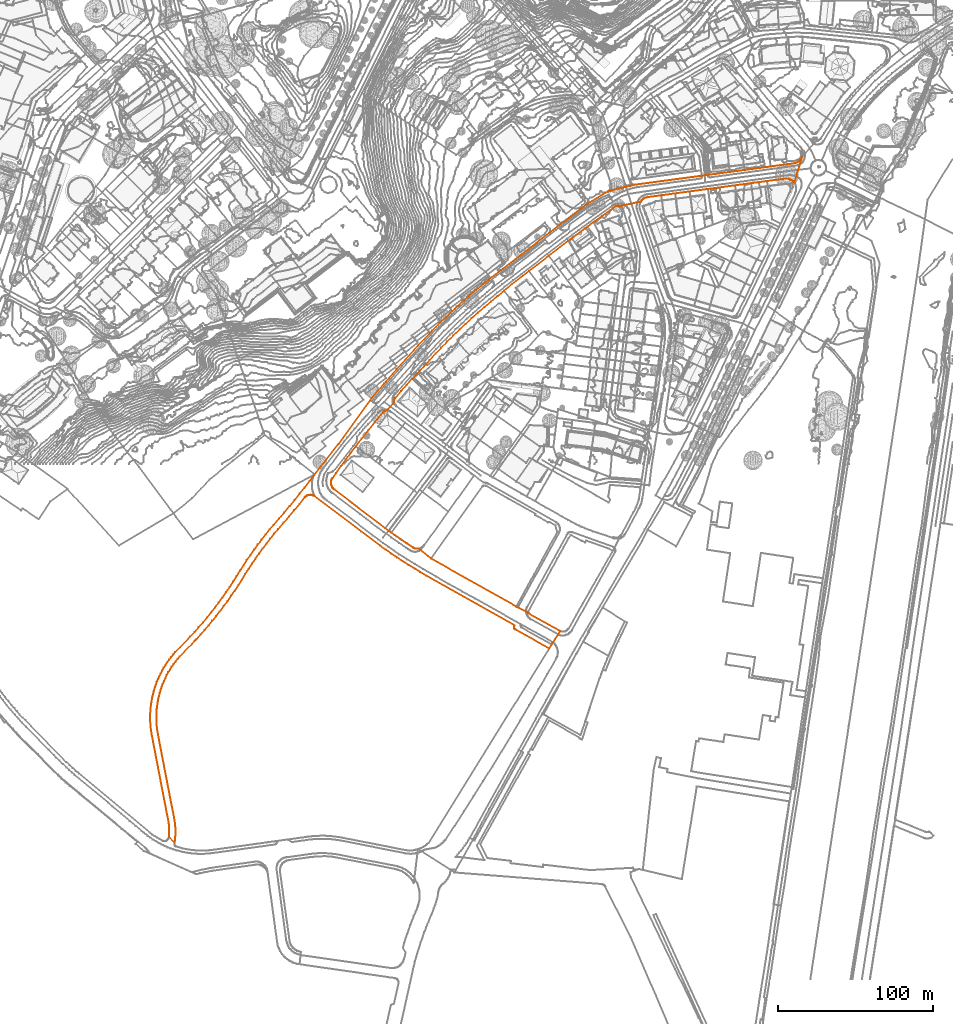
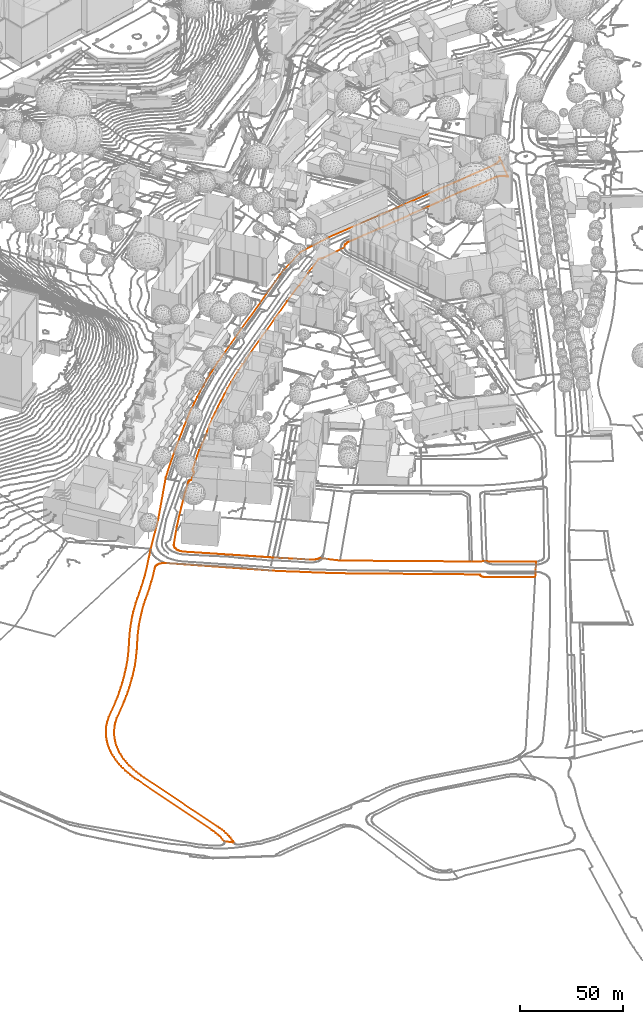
# Not in any storey, part 111 of 494: 1 proxy.
"""IFC2X3 model written with IfcOpenShell, lengths in metres."""

from ifc_helpers import new_model, entity, si_unit, frame, origin_with_axes, place, context, subcontext, project, element, save


model = new_model("IFC2X3")

# Units and contexts
model_context = context("Model", 3, precision=1e-05, world=origin_with_axes())
body_context = subcontext(model_context, "Body", "Model", "MODEL_VIEW")
ifc_project = project(units=[si_unit("AREAUNIT", "SQUARE_METRE"), si_unit("LENGTHUNIT", "METRE")], contexts=[model_context])

# Proxy
proxy_placement = place(None, frame((154.5327320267, -164.0942839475, 505.3426228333), z_axis=(0.0, 0.0, 1.0), x_axis=(1.0, 0.0, 0.0)))
element("IfcBuildingElementProxy", 1, at=proxy_placement, Name="Cadastre 149", ObjectType="NOTDEFINED", context=body_context, shape_type="GeometricCurveSet", body=[
    entity("IfcGeometricCurveSet", [entity("IfcPolyline", [entity("IfcCartesianPoint", [1.2060000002, -12.3830000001, -0.0163954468]), entity("IfcCartesianPoint", [0.8319999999, -10.3400000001, -0.0001767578]), entity("IfcCartesianPoint", [0.5279999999, -8.2850000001, 0.0064936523]), entity("IfcCartesianPoint", [0.2919999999, -6.2220000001, 0.0035911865]), entity("IfcCartesianPoint", [0.125, -4.1510000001, 0.001537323]), entity("IfcCartesianPoint", [0.0279999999, -2.077, 0.0003443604]), entity("IfcCartesianPoint", [0.0, 0.0, 0.0]), entity("IfcCartesianPoint", [0.0419999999, 2.0769999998, 0.0005165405]), entity("IfcCartesianPoint", [0.1529999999, 4.1509999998, 0.0018816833]), entity("IfcCartesianPoint", [0.3340000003, 6.22, 0.0041077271]), entity("IfcCartesianPoint", [0.5840000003, 8.2819999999, 0.0071823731]), entity("IfcCartesianPoint", [0.9029999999, 10.334, -0.0032557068]), entity("IfcCartesianPoint", [1.2910000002, 12.375, -0.0200815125]), entity("IfcCartesianPoint", [1.747, 14.4009999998, -0.044556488]), entity("IfcCartesianPoint", [2.27, 16.4109999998, -0.0913372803]), entity("IfcCartesianPoint", [2.8470000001, 18.4069999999, -0.1378624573]), entity("IfcCartesianPoint", [3.4909999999, 20.3839999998, -0.1792523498]), entity("IfcCartesianPoint", [4.2009999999, 22.3369999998, -0.2411391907]), entity("IfcCartesianPoint", [4.9750000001, 24.2649999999, -0.299756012]), entity("IfcCartesianPoint", [5.8140000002, 26.1669999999, -0.3362230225]), entity("IfcCartesianPoint", [6.716, 28.0389999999, -0.3500701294]), entity("IfcCartesianPoint", [7.6800000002, 29.8799999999, -0.4198739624]), entity("IfcCartesianPoint", [8.7050000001, 31.6879999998, -0.4508912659]), entity("IfcCartesianPoint", [9.7910000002, 33.4609999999, -0.4658191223]), entity("IfcCartesianPoint", [10.9350000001, 35.196, -0.5225260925]), entity("IfcCartesianPoint", [12.1359999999, 36.892, -0.5314093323]), entity("IfcCartesianPoint", [13.3930000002, 38.5459999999, -0.5217888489]), entity("IfcCartesianPoint", [14.7060000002, 40.1579999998, -0.487691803]), entity("IfcCartesianPoint", [16.071, 41.7249999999, -0.5442338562]), entity("IfcCartesianPoint", [25.7609999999, 51.7379999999, -0.8013497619]), entity("IfcCartesianPoint", [28.537, 54.7479999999, -0.8010265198]), entity("IfcCartesianPoint", [31.2630000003, 57.8029999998, -0.8268110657]), entity("IfcCartesianPoint", [33.9380000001, 60.9039999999, -0.8638869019]), entity("IfcCartesianPoint", [36.5610000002, 64.047, -1.0377999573]), entity("IfcCartesianPoint", [39.1320000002, 67.2339999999, -1.0269317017]), entity("IfcCartesianPoint", [41.6499999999, 70.463, -1.1156793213]), entity("IfcCartesianPoint", [44.1210000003, 73.7279999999, -1.2128439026]), entity("IfcCartesianPoint", [46.5380000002, 77.0319999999, -1.4133015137]), entity("IfcCartesianPoint", [48.8999999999, 80.3769999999, -1.5808654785]), entity("IfcCartesianPoint", [51.2060000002, 83.7589999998, -1.6133543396]), entity("IfcCartesianPoint", [53.4560000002, 87.1799999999, -1.4412802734]), entity("IfcCartesianPoint", [55.6499999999, 90.6369999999, -1.3813548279]), entity("IfcCartesianPoint", [57.7790000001, 94.111, -1.556384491]), entity("IfcCartesianPoint", [59.9649999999, 97.551, -1.4317793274]), entity("IfcCartesianPoint", [62.2050000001, 100.9539999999, -1.3596211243]), entity("IfcCartesianPoint", [64.5010000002, 104.3219999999, -1.3388379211]), entity("IfcCartesianPoint", [66.8500000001, 107.6509999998, -1.3048759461]), entity("IfcCartesianPoint", [69.2519999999, 110.9399999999, -1.3463474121]), entity("IfcCartesianPoint", [71.7060000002, 114.1899999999, -1.7353237]), entity("IfcCartesianPoint", [74.213, 117.399, -1.916881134]), entity("IfcCartesianPoint", [76.7710000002, 120.568, -1.9356949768]), entity("IfcCartesianPoint", [79.3799999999, 123.6949999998, -2.2021380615]), entity("IfcCartesianPoint", [82.8420000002, 127.6399999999, -2.3312045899]), entity("IfcCartesianPoint", [86.2630000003, 131.6209999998, -2.532268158]), entity("IfcCartesianPoint", [89.642, 135.6369999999, -2.5718655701]), entity("IfcCartesianPoint", [92.9790000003, 139.689, -2.5023097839]), entity("IfcCartesianPoint", [96.2230000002, 143.75, -2.3170953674]), entity("IfcCartesianPoint", [99.4250000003, 147.845, -1.778318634]), entity("IfcCartesianPoint", [102.5840000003, 151.973, -1.4929896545]), entity("IfcCartesianPoint", [105.699, 156.1339999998, -1.4561200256]), entity("IfcCartesianPoint", [121.2549999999, 175.865, -1.6524384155]), entity("IfcCartesianPoint", [142.5660000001, 205.341, -1.8092639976]), entity("IfcCartesianPoint", [150.557, 214.7189999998, -1.883841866]), entity("IfcCartesianPoint", [158.7149999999, 223.9949999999, -1.9932315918]), entity("IfcCartesianPoint", [172.3360000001, 239.031, -2.1333289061]), entity("IfcCartesianPoint", [181.4750000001, 248.8089999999, -2.2485789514]), entity("IfcCartesianPoint", [186.3489999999, 253.5599999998, -2.3085580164]), entity("IfcCartesianPoint", [190.1329999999, 257.2549999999, -2.3219283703]), entity("IfcCartesianPoint", [193.9679999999, 260.8969999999, -2.4236527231]), entity("IfcCartesianPoint", [197.8530000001, 264.4849999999, -2.4757754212]), entity("IfcCartesianPoint", [201.7880000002, 268.0189999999, -2.5317026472]), entity("IfcCartesianPoint", [205.7689999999, 271.4959999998, -2.5777396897]), entity("IfcCartesianPoint", [209.798, 274.9169999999, -2.629919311]), entity("IfcCartesianPoint", [213.8740000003, 278.2819999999, -2.7128531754]), entity("IfcCartesianPoint", [217.997, 281.5889999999, -2.6836720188]), entity("IfcCartesianPoint", [225.895, 287.7489999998, -2.8008434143]), entity("IfcCartesianPoint", [276.716, 326.96, -2.4505935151]), entity("IfcCartesianPoint", [281.3170000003, 330.253, -2.4395861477]), entity("IfcCartesianPoint", [295.1210000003, 338.716, -2.3447109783]), entity("IfcCartesianPoint", [312.2680000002, 342.686, -2.5391912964]), entity("IfcCartesianPoint", [358.0419999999, 348.8469999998, -2.83661916]), entity("IfcCartesianPoint", [373.1200000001, 350.8669999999, -2.8159804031]), entity("IfcCartesianPoint", [382.7090000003, 352.1569999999, -2.8554079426]), entity("IfcCartesianPoint", [399.5470000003, 354.4279999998, -2.9931989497]), entity("IfcCartesianPoint", [414.2260000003, 356.3999999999, -2.9657775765]), entity("IfcCartesianPoint", [414.9280000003, 356.5159999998, -2.970938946]), entity("IfcCartesianPoint", [415.6120000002, 356.7079999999, -2.9525679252]), entity("IfcCartesianPoint", [416.2719999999, 356.9739999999, -2.9142430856]), entity("IfcCartesianPoint", [416.8990000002, 357.3099999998, -2.9013623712]), entity("IfcCartesianPoint", [417.4849999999, 357.713, -2.8972143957]), entity("IfcCartesianPoint", [418.0240000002, 358.1769999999, -2.880036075]), entity("IfcCartesianPoint", [418.5090000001, 358.6979999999, -2.860058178]), entity("IfcCartesianPoint", [418.9339999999, 359.2679999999, -2.8321860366]), entity("IfcCartesianPoint", [419.2940000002, 359.8809999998, -2.8039679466]), entity("IfcCartesianPoint", [419.585, 360.53, -2.7725969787]), entity("IfcCartesianPoint", [414.6860000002, 343.959, -2.7518927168]), entity("IfcCartesianPoint", [414.2439999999, 344.4959999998, -2.7170474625]), entity("IfcCartesianPoint", [413.7480000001, 344.983, -2.6654043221]), entity("IfcCartesianPoint", [413.2030000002, 345.415, -2.6392082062]), entity("IfcCartesianPoint", [412.6159999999, 345.787, -2.6270326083]), entity("IfcCartesianPoint", [411.9920000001, 346.0939999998, -2.6253682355]), entity("IfcCartesianPoint", [411.3390000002, 346.3329999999, -2.6272969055]), entity("IfcCartesianPoint", [410.6639999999, 346.5019999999, -2.643516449]), entity("IfcCartesianPoint", [409.9750000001, 346.598, -2.6482165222]), entity("IfcCartesianPoint", [409.2800000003, 346.6199999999, -2.6413540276]), entity("IfcCartesianPoint", [408.5870000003, 346.5689999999, -2.6238918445]), entity("IfcCartesianPoint", [397.1380000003, 345.0279999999, -2.7051812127]), entity("IfcCartesianPoint", [386.8590000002, 343.6469999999, -2.20450076]), entity("IfcCartesianPoint", [376.5800000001, 342.257, -2.3842553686]), entity("IfcCartesianPoint", [359.1520000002, 339.9169999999, -2.4992127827]), entity("IfcCartesianPoint", [347.2740000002, 338.3169999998, -2.6593111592]), entity("IfcCartesianPoint", [338.0550000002, 337.0759999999, -2.6061414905]), entity("IfcCartesianPoint", [329.0559999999, 335.8659999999, -2.5688110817]), entity("IfcCartesianPoint", [320.1970000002, 334.676, -2.5358612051]), entity("IfcCartesianPoint", [319.5430000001, 334.548, -2.5342208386]), entity("IfcCartesianPoint", [318.9070000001, 334.348, -2.530767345]), entity("IfcCartesianPoint", [318.2970000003, 334.0789999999, -2.527112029]), entity("IfcCartesianPoint", [317.7209999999, 333.743, -2.5241943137]), entity("IfcCartesianPoint", [317.1860000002, 333.3459999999, -2.5530044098]), entity("IfcCartesianPoint", [316.6979999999, 332.892, -2.5910519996]), entity("IfcCartesianPoint", [316.264, 332.3869999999, -2.6024352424]), entity("IfcCartesianPoint", [315.8880000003, 331.8359999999, -2.592188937]), entity("IfcCartesianPoint", [302.2490000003, 328.916, -2.4571699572]), entity("IfcCartesianPoint", [301.798, 329.031, -2.4160082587]), entity("IfcCartesianPoint", [301.335, 329.085, -2.3635889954]), entity("IfcCartesianPoint", [300.8700000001, 329.0769999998, -2.2926716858]), entity("IfcCartesianPoint", [300.4100000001, 329.0079999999, -2.218959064]), entity("IfcCartesianPoint", [299.963, 328.8769999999, -2.1367658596]), entity("IfcCartesianPoint", [299.537, 328.689, -2.072959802]), entity("IfcCartesianPoint", [299.1400000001, 328.446, -2.0910202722]), entity("IfcCartesianPoint", [290.8110000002, 322.5349999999, -2.4468672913]), entity("IfcCartesianPoint", [281.4620000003, 315.6849999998, -2.8019570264]), entity("IfcCartesianPoint", [269.1240000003, 306.5939999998, -2.8242058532]), entity("IfcCartesianPoint", [256.5959999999, 296.9339999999, -3.1266950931]), entity("IfcCartesianPoint", [243.9380000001, 287.1739999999, -3.1570894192]), entity("IfcCartesianPoint", [227.6979999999, 274.6129999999, -3.0987196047]), entity("IfcCartesianPoint", [227.8820000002, 274.3739999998, -3.1279191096]), entity("IfcCartesianPoint", [223.6129999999, 270.9709999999, -2.8719831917]), entity("IfcCartesianPoint", [219.392, 267.51, -2.8600598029]), entity("IfcCartesianPoint", [215.2179999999, 263.9919999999, -2.8062931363]), entity("IfcCartesianPoint", [211.0929999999, 260.416, -2.6623224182]), entity("IfcCartesianPoint", [207.017, 256.784, -2.5534096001]), entity("IfcCartesianPoint", [202.9920000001, 253.0969999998, -2.6452792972]), entity("IfcCartesianPoint", [199.0180000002, 249.3539999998, -2.5358297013]), entity("IfcCartesianPoint", [195.0950000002, 245.557, -2.5115234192]), entity("IfcCartesianPoint", [191.2250000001, 241.7069999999, -2.5801727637]), entity("IfcCartesianPoint", [187.4080000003, 237.804, -2.4305469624]), entity("IfcCartesianPoint", [183.645, 233.8499999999, -2.4355082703]), entity("IfcCartesianPoint", [179.9360000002, 229.8439999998, -2.4454526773]), entity("IfcCartesianPoint", [168.679, 217.517, -2.2479542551]), entity("IfcCartesianPoint", [168.4679999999, 217.7219999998, -2.2577171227]), entity("IfcCartesianPoint", [164.966, 213.7589999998, -2.0828404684]), entity("IfcCartesianPoint", [161.4939999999, 209.7689999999, -2.0705627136]), entity("IfcCartesianPoint", [158.0530000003, 205.7519999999, -2.0881727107]), entity("IfcCartesianPoint", [157.7220000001, 205.3189999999, -2.0884026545]), entity("IfcCartesianPoint", [157.4530000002, 204.8439999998, -2.085411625]), entity("IfcCartesianPoint", [157.2510000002, 204.338, -2.0832156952]), entity("IfcCartesianPoint", [157.1200000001, 203.8089999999, -2.0849365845]), entity("IfcCartesianPoint", [157.0610000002, 203.267, -2.0832736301]), entity("IfcCartesianPoint", [157.077, 202.7219999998, -2.0813719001]), entity("IfcCartesianPoint", [152.1469999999, 197.2019999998, -1.7696685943]), entity("IfcCartesianPoint", [151.642, 197.111, -1.7282215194]), entity("IfcCartesianPoint", [151.1520000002, 196.9549999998, -1.7298373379]), entity("IfcCartesianPoint", [150.6869999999, 196.7389999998, -1.7161124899]), entity("IfcCartesianPoint", [150.253, 196.4639999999, -1.7620959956]), entity("IfcCartesianPoint", [149.8569999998, 196.1369999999, -1.7457984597]), entity("IfcCartesianPoint", [149.5070000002, 195.7609999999, -1.6734062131]), entity("IfcCartesianPoint", [144.3670000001, 189.541, -1.736502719]), entity("IfcCartesianPoint", [140.273, 184.4669999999, -1.7999864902]), entity("IfcCartesianPoint", [136.233, 179.3499999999, -1.7234613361]), entity("IfcCartesianPoint", [132.247, 174.1909999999, -1.5674797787]), entity("IfcCartesianPoint", [129.04, 169.956, -1.534521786]), entity("IfcCartesianPoint", [125.8689999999, 165.693, -1.4154538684]), entity("IfcCartesianPoint", [122.7349999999, 161.4029999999, -1.5950999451]), entity("IfcCartesianPoint", [119.6370000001, 157.0869999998, -1.673978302]), entity("IfcCartesianPoint", [117.4369999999, 153.916, -1.6248179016]), entity("IfcCartesianPoint", [117.088, 153.365, -1.6125270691]), entity("IfcCartesianPoint", [116.8059999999, 152.7759999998, -1.6025957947]), entity("IfcCartesianPoint", [116.5959999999, 152.1569999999, -1.5961422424]), entity("IfcCartesianPoint", [116.4610000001, 151.5189999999, -1.593983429]), entity("IfcCartesianPoint", [116.4029999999, 150.868, -1.5930559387]), entity("IfcCartesianPoint", [116.4210000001, 150.216, -1.5933437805]), entity("IfcCartesianPoint", [116.5180000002, 149.5699999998, -1.594894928]), entity("IfcCartesianPoint", [116.6899999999, 148.9399999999, -1.5985105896]), entity("IfcCartesianPoint", [116.9350000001, 148.335, -1.6071388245]), entity("IfcCartesianPoint", [117.25, 147.763, -1.6182322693]), entity("IfcCartesianPoint", [117.6310000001, 147.233, -1.6316500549]), entity("IfcCartesianPoint", [118.0720000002, 146.7519999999, -1.6513898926]), entity("IfcCartesianPoint", [118.5670000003, 146.3259999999, -1.6737017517]), entity("IfcCartesianPoint", [153.551, 119.841, -1.3152816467]), entity("IfcCartesianPoint", [157.298, 117.129, -1.3589804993]), entity("IfcCartesianPoint", [161.088, 114.476, -1.3071403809]), entity("IfcCartesianPoint", [164.9180000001, 111.8829999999, -1.5148742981]), entity("IfcCartesianPoint", [168.7889999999, 109.351, -1.5089746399]), entity("IfcCartesianPoint", [169.3080000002, 109.0249999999, -1.4913779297]), entity("IfcCartesianPoint", [169.8599999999, 108.7589999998, -1.4931794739]), entity("IfcCartesianPoint", [170.4390000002, 108.5549999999, -1.5288015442]), entity("IfcCartesianPoint", [171.0359999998, 108.4179999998, -1.557393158]), entity("IfcCartesianPoint", [171.645, 108.3469999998, -1.5821858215]), entity("IfcCartesianPoint", [172.2579999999, 108.345, -1.5505331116]), entity("IfcCartesianPoint", [172.8680000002, 108.4109999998, -1.5212538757]), entity("IfcCartesianPoint", [180.7170000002, 101.9809999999, -1.8596504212]), entity("IfcCartesianPoint", [202.5040000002, 89.7309999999, -2.265276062]), entity("IfcCartesianPoint", [235.6800000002, 71.081, -2.906809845]), entity("IfcCartesianPoint", [243.2490000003, 67.1409999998, -3.0009917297]), entity("IfcCartesianPoint", [243.321, 66.9409999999, -3.0018882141]), entity("IfcCartesianPoint", [243.4339999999, 66.7609999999, -3.0032951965]), entity("IfcCartesianPoint", [243.5819999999, 66.6089999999, -3.00513797]), entity("IfcCartesianPoint", [243.7590000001, 66.4909999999, -3.0073383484]), entity("IfcCartesianPoint", [263.8560000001, 55.3809999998, -3.2814216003]), entity("IfcCartesianPoint", [256.8659999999, 44.111, -3.280083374]), entity("IfcCartesianPoint", [235.1690000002, 56.2209999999, -2.9004472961]), entity("IfcCartesianPoint", [234.8569999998, 56.4679999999, -2.8965625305]), entity("IfcCartesianPoint", [234.6000000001, 56.7719999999, -2.8933639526]), entity("IfcCartesianPoint", [234.4080000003, 57.1209999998, -2.890979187]), entity("IfcCartesianPoint", [234.2889999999, 57.5009999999, -2.8895011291]), entity("IfcCartesianPoint", [234.253, 57.8959999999, -2.8890539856]), entity("IfcCartesianPoint", [234.2960000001, 58.291, -2.8895880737]), entity("IfcCartesianPoint", [234.4160000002, 58.669, -2.8910785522]), entity("IfcCartesianPoint", [234.6090000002, 59.0159999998, -2.8934757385]), entity("IfcCartesianPoint", [177.736, 91.0209999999, -1.7406611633]), entity("IfcCartesianPoint", [173.898, 93.2609999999, -1.4941828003]), entity("IfcCartesianPoint", [170.088, 95.5499999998, -1.5072068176]), entity("IfcCartesianPoint", [166.3080000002, 97.8869999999, -1.5370578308]), entity("IfcCartesianPoint", [162.5580000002, 100.2709999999, -1.3607223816]), entity("IfcCartesianPoint", [158.8459999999, 102.7109999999, -1.3227983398]), entity("IfcCartesianPoint", [155.165, 105.1979999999, -1.2875788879]), entity("IfcCartesianPoint", [151.5160000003, 107.7309999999, -1.4448482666]), entity("IfcCartesianPoint", [147.8999999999, 110.311, -1.418170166]), entity("IfcCartesianPoint", [105.9780000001, 142.0729999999, -1.4611775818]), entity("IfcCartesianPoint", [105.466, 142.416, -1.4616690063]), entity("IfcCartesianPoint", [104.9139999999, 142.6899999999, -1.4817996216]), entity("IfcCartesianPoint", [104.3310000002, 142.8899999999, -1.4884282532]), entity("IfcCartesianPoint", [103.7280000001, 143.013, -1.4823187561]), entity("IfcCartesianPoint", [103.1129999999, 143.057, -1.4875823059]), entity("IfcCartesianPoint", [102.4980000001, 143.0219999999, -1.4930421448]), entity("IfcCartesianPoint", [101.977, 142.9269999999, -1.4933601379]), entity("IfcCartesianPoint", [101.469, 142.7749999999, -1.5050622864]), entity("IfcCartesianPoint", [100.9810000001, 142.5669999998, -1.5369472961]), entity("IfcCartesianPoint", [100.52, 142.3059999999, -1.5777226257]), entity("IfcCartesianPoint", [100.0899999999, 141.9949999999, -1.6424693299]), entity("IfcCartesianPoint", [99.6979999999, 141.639, -1.7014942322]), entity("IfcCartesianPoint", [99.3480000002, 141.2409999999, -1.8024140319]), entity("IfcCartesianPoint", [96.0430000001, 137.139, -2.3466376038]), entity("IfcCartesianPoint", [92.696, 133.0719999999, -2.5028884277]), entity("IfcCartesianPoint", [89.3059999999, 129.041, -2.5610169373]), entity("IfcCartesianPoint", [85.8730000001, 125.0449999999, -2.5291617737]), entity("IfcCartesianPoint", [82.3990000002, 121.0859999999, -2.3187214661]), entity("IfcCartesianPoint", [79.8360000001, 118.0109999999, -2.2419472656]), entity("IfcCartesianPoint", [77.3229999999, 114.8959999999, -1.9616036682]), entity("IfcCartesianPoint", [74.8599999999, 111.74, -1.9129692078]), entity("IfcCartesianPoint", [72.449, 108.5449999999, -1.7784507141]), entity("IfcCartesianPoint", [70.0890000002, 105.3119999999, -1.4248731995]), entity("IfcCartesianPoint", [67.7770000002, 102.031, -1.359184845]), entity("IfcCartesianPoint", [65.5189999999, 98.713, -1.2306664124]), entity("IfcCartesianPoint", [63.3149999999, 95.3599999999, -1.3348329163]), entity("IfcCartesianPoint", [61.1639999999, 91.9709999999, -1.3918352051]), entity("IfcCartesianPoint", [59.0690000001, 88.548, -1.507460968]), entity("IfcCartesianPoint", [56.8360000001, 85.031, -1.4449326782]), entity("IfcCartesianPoint", [54.5460000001, 81.551, -1.4302342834]), entity("IfcCartesianPoint", [52.1979999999, 78.1089999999, -1.5330097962]), entity("IfcCartesianPoint", [49.7940000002, 74.7069999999, -1.6712758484]), entity("IfcCartesianPoint", [47.335, 71.3439999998, -1.523575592]), entity("IfcCartesianPoint", [44.8200000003, 68.0229999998, -1.260545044]), entity("IfcCartesianPoint", [42.4330000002, 64.959, -1.1324776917]), entity("IfcCartesianPoint", [39.9990000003, 61.933, -1.039273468]), entity("IfcCartesianPoint", [37.5189999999, 58.9439999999, -1.062577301]), entity("IfcCartesianPoint", [34.9930000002, 55.9939999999, -0.9463491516]), entity("IfcCartesianPoint", [32.4220000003, 53.0819999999, -0.8070184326]), entity("IfcCartesianPoint", [29.807, 50.2109999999, -0.8248555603]), entity("IfcCartesianPoint", [29.2250000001, 49.584, -0.8167225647]), entity("IfcCartesianPoint", [28.6400000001, 48.9579999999, -0.8002124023]), entity("IfcCartesianPoint", [18.9709999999, 38.9349999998, -0.5315498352]), entity("IfcCartesianPoint", [17.6069999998, 37.3599999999, -0.5325281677]), entity("IfcCartesianPoint", [16.3000000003, 35.737, -0.5373501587]), entity("IfcCartesianPoint", [15.0520000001, 34.0669999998, -0.5132447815]), entity("IfcCartesianPoint", [13.8650000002, 32.355, -0.5135603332]), entity("IfcCartesianPoint", [12.7400000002, 30.5999999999, -0.5209120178]), entity("IfcCartesianPoint", [11.679, 28.807, -0.540948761]), entity("IfcCartesianPoint", [10.6830000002, 26.976, -0.5157354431]), entity("IfcCartesianPoint", [9.7540000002, 25.111, -0.4637008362]), entity("IfcCartesianPoint", [8.8910000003, 23.2139999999, -0.4521911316]), entity("IfcCartesianPoint", [8.0980000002, 21.2859999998, -0.4331278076]), entity("IfcCartesianPoint", [7.375, 19.3319999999, -0.3987992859]), entity("IfcCartesianPoint", [6.7220000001, 17.3529999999, -0.3505137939]), entity("IfcCartesianPoint", [6.1400000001, 15.352, -0.3395956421]), entity("IfcCartesianPoint", [5.6129999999, 13.324, -0.3328164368]), entity("IfcCartesianPoint", [5.1600000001, 11.2779999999, -0.3093424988]), entity("IfcCartesianPoint", [4.781, 9.2169999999, -0.2897031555]), entity("IfcCartesianPoint", [4.477, 7.1429999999, -0.2669468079]), entity("IfcCartesianPoint", [4.2480000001, 5.0599999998, -0.2455339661]), entity("IfcCartesianPoint", [4.094, 2.97, -0.2311340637]), entity("IfcCartesianPoint", [4.0160000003, 0.8759999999, -0.2238406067]), entity("IfcCartesianPoint", [4.014, -1.219, -0.223653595]), entity("IfcCartesianPoint", [4.088, -3.3130000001, -0.2305730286]), entity("IfcCartesianPoint", [4.2370000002, -5.4040000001, -0.2445054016]), entity("IfcCartesianPoint", [4.4620000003, -7.487, -0.26554422]), entity("IfcCartesianPoint", [4.7609999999, -9.561, -0.2886667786]), entity("IfcCartesianPoint", [5.1359999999, -11.6230000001, -0.3080988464]), entity("IfcCartesianPoint", [15.4879999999, -65.1900000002, -0.5454444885]), entity("IfcCartesianPoint", [15.7779999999, -66.8030000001, -0.5530413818]), entity("IfcCartesianPoint", [16.0049999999, -68.426, -0.546217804]), entity("IfcCartesianPoint", [16.1680000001, -70.0560000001, -0.5413180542]), entity("IfcCartesianPoint", [16.2680000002, -71.6910000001, -0.5383120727]), entity("IfcCartesianPoint", [16.304, -73.3300000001, -0.5372299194]), entity("IfcCartesianPoint", [16.2760000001, -74.9680000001, -0.5380715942]), entity("IfcCartesianPoint", [16.2069999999, -76.4570000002, -0.5401457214]), entity("IfcCartesianPoint", [16.0860000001, -77.943, -0.543782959]), entity("IfcCartesianPoint", [15.912, -79.4240000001, -0.5490133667]), entity("IfcCartesianPoint", [15.6850000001, -80.8970000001, -0.5558369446]), entity("IfcCartesianPoint", [12.0959999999, -77.4380000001, -0.5322442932]), entity("IfcCartesianPoint", [12.233, -75.7960000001, -0.529384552]), entity("IfcCartesianPoint", [12.2990000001, -74.1500000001, -0.5280068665]), entity("IfcCartesianPoint", [12.2940000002, -72.5020000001, -0.5281112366]), entity("IfcCartesianPoint", [12.216, -70.8570000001, -0.5297394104]), entity("IfcCartesianPoint", [12.068, -69.216, -0.5328287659]), entity("IfcCartesianPoint", [11.8480000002, -67.5830000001, -0.537421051]), entity("IfcCartesianPoint", [11.5580000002, -65.9610000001, -0.5393140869]), entity("IfcCartesianPoint", [1.2060000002, -12.3830000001, -0.0163954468])])]),
])

save(model, "model.ifc")
